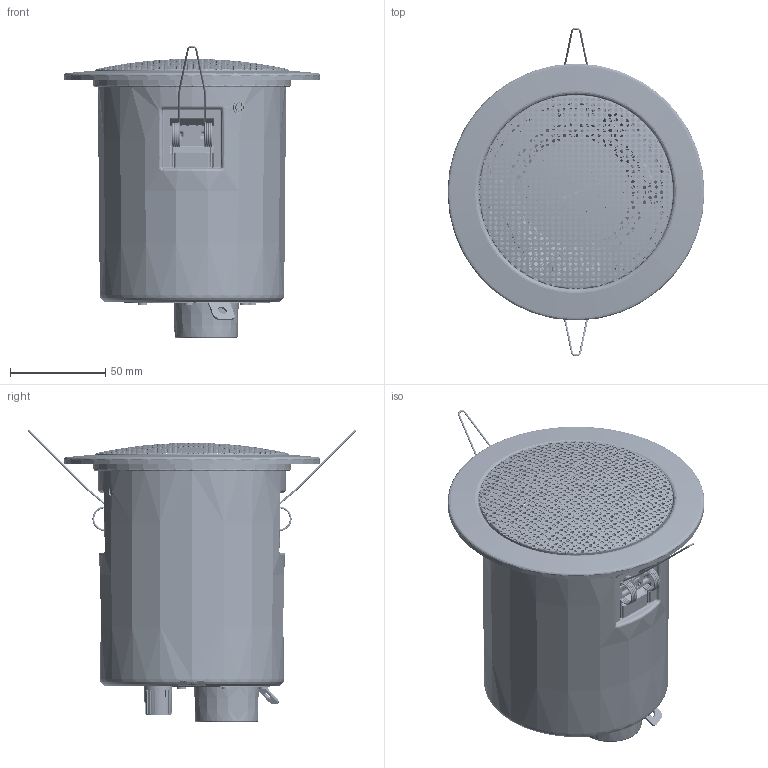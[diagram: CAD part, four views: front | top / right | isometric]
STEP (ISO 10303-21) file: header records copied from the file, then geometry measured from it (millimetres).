
FILE_DESCRIPTION (( 'STEP AP203' ), '1' );
FILE_NAME ('SMS-Surf4 3D drawing.STEP', '2020-10-21T15:34:53', ( 'scaryzero0@hotmail.com' ), ( '' ), 'SwSTEP 2.0', 'SolidWorks 2018', '' );
FILE_SCHEMA (( 'CONFIG_CONTROL_DESIGN' ));
Length unit declared in the file: millimetre
Products named in the file (31): SMS-Surf4 3D drawing.stp; A175-SA3-44(SMS-Surf4)3D?_stp-11.stp; pj-175sa3-01_stp.stp; ??.stp; A175-SA3-44(SMS-Surf4)3D?_stp-5.stp; A175-SA3-44(SMS-Surf4)3D?_stp-13.stp; A175-SA3-44(SMS-Surf4)3D?_stp-15.stp; ??3315.stp; A175-SA3-44(SMS-Surf4)3D?_stp.stp; A175-SA3-44(SMS-Surf4)3D?_stp-16.stp; A175-SA3-44(SMS-Surf4)3D?_stp-6.stp; ??0.4.stp; ZJ_stp.stp; A175-SA3-44(SMS-Surf4)3D?_stp-14.stp; A175-SA3-44(SMS-Surf4)3D?_stp-20.stp; A175-SA3-44(SMS-Surf4)3D?_stp-8.stp; A175-SA3-44(SMS-Surf4)3D?_stp-18.stp; HG-175SA3-A1_stp.stp; GDQ-FLAT00-12.stp; A175-SA3-44(SMS-Surf4)3D?_stp-10.stp; A175-SA3-44(SMS-Surf4)3D?_stp-7.stp; A175-SA3-44(SMS-Surf4)3D?_stp-19.stp; HG-175SA3-A3_stp.stp; SMS-Surf4 3D drawing; A175-SA3-44(SMS-Surf4)3D?_stp-17.stp; A175-SA3-44(SMS-Surf4)3D?_stp-3.stp; A175-SA3-44(SMS-Surf4)3D?_stp-12.stp; A175-SA3-44(SMS-Surf4)3D?_stp-21.stp; A175-SA3-44(SMS-Surf4)3D?_stp-4.stp; A175-SA3-44(SMS-Surf4)3D?_stp-9.stp
Assembly tree (36 placements, depth 3):
  SMS-Surf4 3D drawing
    SMS-Surf4 3D drawing.stp
      ??3315.stp  x3
      GDQ-FLAT00-12.stp
      HG-175SA3-A1_stp.stp
      ??0.4.stp  x5
      HG-175SA3-A3_stp.stp
      ??.stp
      pj-175sa3-01_stp.stp
      ZJ_stp.stp
      ??.stp
      A175-SA3-44(SMS-Surf4)3D?_stp.stp
      A175-SA3-44(SMS-Surf4)3D?_stp-3.stp
      A175-SA3-44(SMS-Surf4)3D?_stp-4.stp
      A175-SA3-44(SMS-Surf4)3D?_stp-5.stp
      A175-SA3-44(SMS-Surf4)3D?_stp-6.stp
      A175-SA3-44(SMS-Surf4)3D?_stp-7.stp
      A175-SA3-44(SMS-Surf4)3D?_stp-8.stp
      A175-SA3-44(SMS-Surf4)3D?_stp-9.stp
      A175-SA3-44(SMS-Surf4)3D?_stp-10.stp
      A175-SA3-44(SMS-Surf4)3D?_stp-11.stp
      A175-SA3-44(SMS-Surf4)3D?_stp-12.stp
      A175-SA3-44(SMS-Surf4)3D?_stp-13.stp
      A175-SA3-44(SMS-Surf4)3D?_stp-14.stp
      A175-SA3-44(SMS-Surf4)3D?_stp-15.stp
      A175-SA3-44(SMS-Surf4)3D?_stp-16.stp
      A175-SA3-44(SMS-Surf4)3D?_stp-17.stp
      A175-SA3-44(SMS-Surf4)3D?_stp-18.stp
      A175-SA3-44(SMS-Surf4)3D?_stp-19.stp
      A175-SA3-44(SMS-Surf4)3D?_stp-20.stp
      A175-SA3-44(SMS-Surf4)3D?_stp-21.stp
Bounding box: 135 x 172.72 x 153.9 mm (x, y, z)
Volume: 70719.6 mm3; surface area: 179103.9 mm2
Topology: 36 solids, 36 shells, 5310 faces, 15801 edges, 10214 vertices
Faces by surface type: cylinder 4170, plane 675, torus 231, bspline 172, cone 32, sphere 30
Entity records: 270567 total; most frequent: CARTESIAN_POINT 126772, ORIENTED_EDGE 30890, DIRECTION 25935, EDGE_CURVE 15445, AXIS2_PLACEMENT_3D 10608, VERTEX_POINT 9998, EDGE_LOOP 8597, CIRCLE 5568
